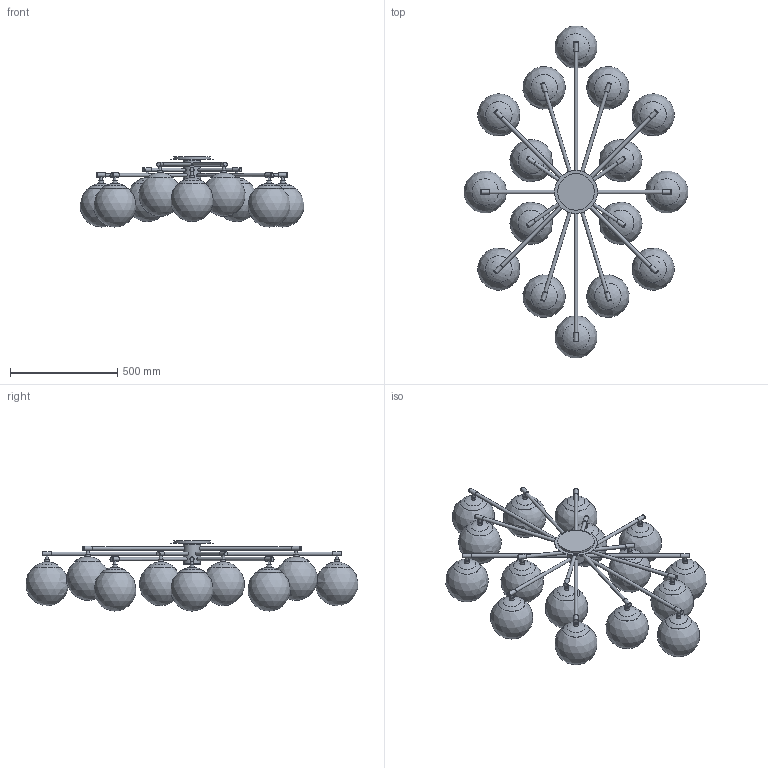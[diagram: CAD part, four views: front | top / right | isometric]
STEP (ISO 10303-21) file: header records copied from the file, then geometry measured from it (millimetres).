
FILE_DESCRIPTION(/* description */ (''),/* implementation_level */ '2;1');
FILE_NAME(/* name */ 'T:\B612 Globe Orion Oval MD\Pliki bryłowe handlowe\B612 Orion Oval 3D files\B612 Orion Oval.stp',/* time_stamp */ '2022-01-27T15:44:00+01:00',/* author */ ('Mariusz Awariusz'),/* organization */ (''),/* preprocessor_version */ 'ST-DEVELOPER v18.1',/* originating_system */ 'Autodesk Inventor 2022',/* authorisation */ '');
FILE_SCHEMA (('AUTOMOTIVE_DESIGN { 1 0 10303 214 3 1 1 }'));
Length unit declared in the file: millimetre
Products named in the file (1): B612 Globe Orion Oval MD CE_v1_na potrzeby plików 3D_2_jako część
Bounding box: 1043.92 x 1549.92 x 326.8 mm (x, y, z)
Volume: 6394044.2 mm3; surface area: 4727640.3 mm2
Topology: 17 solids, 17 shells, 527 faces, 1019 edges, 639 vertices
Faces by surface type: cone 166, cylinder 149, plane 116, sphere 32, torus 32, bspline 32
Full cylindrical faces by diameter (mm): 13 x32, 14.7 x16, 16 x32, 20 x32, 22 x16, 80 x3, 80.221 x16, 170 x1, 200 x1
Entity records: 15685 total; most frequent: CARTESIAN_POINT 4650, DIRECTION 2554, ORIENTED_EDGE 1974, AXIS2_PLACEMENT_3D 1119, EDGE_CURVE 987, EDGE_LOOP 672, VERTEX_POINT 639, CIRCLE 623
